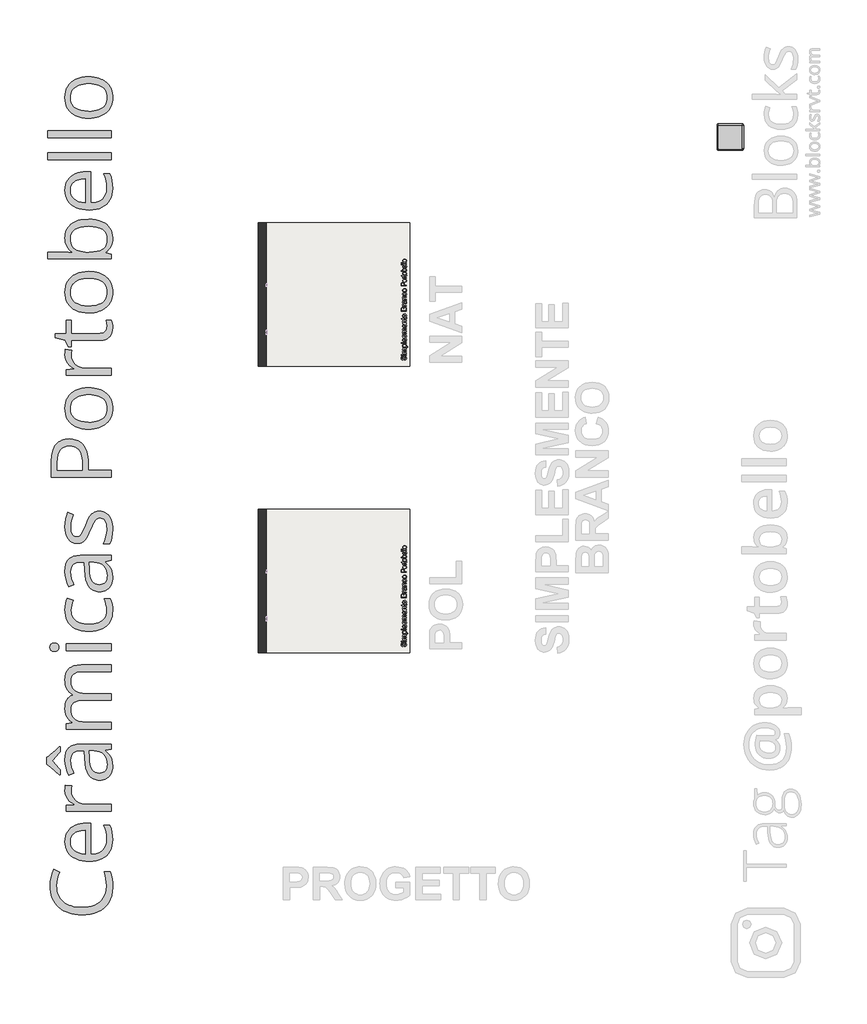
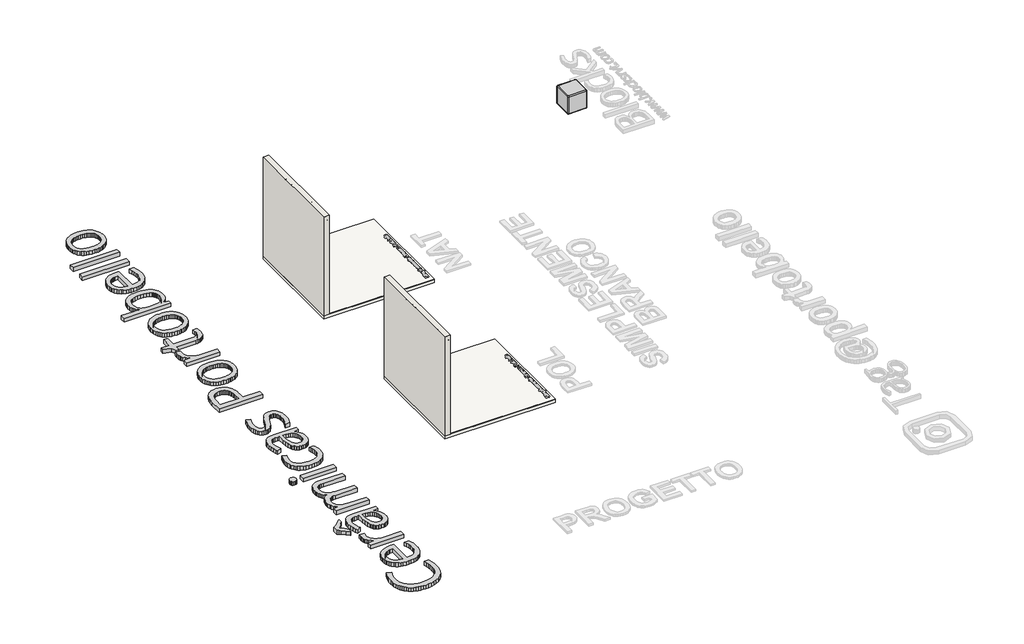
# One storey, part 1 of 6: 4 slabs, 2 walls, 1 furniture element, 1 proxy.
"""IFC4 building model written with IfcOpenShell, lengths in millimetres."""

from ifc_helpers import new_model, si_unit, frame, origin, origin_with_axes, place, context, project, spatial, polyline, outline, extrude, transform, mapped, element, save
from components import branco_22256ad2

model = new_model("IFC4")

# Units and contexts
model_context = context("Model", 3, world=origin())
ifc_project = project(units=[si_unit("LENGTHUNIT", "METRE", prefix="MILLI")], contexts=[model_context])

# Site, building, storey
site = spatial("IfcSite", under=ifc_project)
building = spatial("IfcBuilding", under=site)
storey = spatial("IfcBuildingStorey", under=building, Name="PORTOBELLO - SHOWROOM", Elevation=0.0)

# Proxy
placement = place(None, origin())
element("IfcBuildingElementProxy", 1, Name="1200mm OpenSans", ObjectType="1200mm OpenSans", at=placement, inside=storey, context=model_context, shape_type="SweptSolid", body=[
    extrude(outline(polyline([(237212.7714435, -12426.9162481), (237214.8108037, -12472.773685), (237220.9288843, -12516.2424791), (237231.1256854, -12557.3226302), (237245.4012069, -12596.0141384), (237263.5188381, -12632.1029272), (237285.2419679, -12665.3749202), (237310.5705964, -12695.8301172), (237339.5047237, -12723.4685184), (237371.8415404, -12748.1661847), (237407.3782373, -12769.7991771), (237446.1148142, -12788.3674955), (237488.0512713, -12803.8711401), (237532.9509976, -12816.0960342), (237580.5773824, -12824.8281014), (237630.9304256, -12830.0673417), (237684.0101271, -12831.8137552), (237753.9004665, -12829.0307609), (237818.9909858, -12820.6817779), (237879.2816848, -12806.7668062), (237934.7725636, -12787.2858459), (237984.8551944, -12762.2388969), (238028.9211492, -12731.6259593), (238066.9704279, -12695.447033), (238099.0030307, -12653.7021181), (238124.3992623, -12606.3799473), (238142.5394278, -12553.4692534), (238153.4235271, -12494.9700366), (238157.0515602, -12430.8822967), (238153.8516801, -12357.0146415), (238144.2520397, -12287.5637223), (238129.7849761, -12221.177477), (238111.9828261, -12156.5038435), (238226.9982355, -12156.5038435), (238247.3693033, -12220.1408961), (238261.6110233, -12287.0228975), (238269.9938078, -12361.9271335), (238272.7880693, -12449.6308901), (238268.2586616, -12532.6136967), (238254.6704382, -12608.4981778), (238232.0233993, -12677.2843332), (238200.3175449, -12738.972163), (238160.3415778, -12793.4602625), (238112.8842008, -12840.6472271), (238057.9454139, -12880.5330567), (237995.5252172, -12913.1177515), (237926.3897791, -12938.4351129), (237851.3052681, -12956.5189424), (237770.2716842, -12967.3692402), (237683.2890274, -12970.9860061), (237619.6181733, -12968.7325694), (237558.7641151, -12961.9722593), (237500.7268528, -12950.7050757), (237445.5063863, -12934.9310188), (237393.5308687, -12914.807829), (237345.228453, -12890.493247), (237300.599139, -12861.9872727), (237259.6429269, -12829.2899061), (237222.7429009, -12792.5025519), (237190.2821452, -12751.7266147), (237162.2606597, -12706.9620946), (237138.6784446, -12658.2089915), (237119.9861871, -12605.6025116), (237106.6345747, -12549.2778612), (237098.6236072, -12489.2350402), (237095.9532847, -12425.4740486), (237100.2348144, -12340.5645536), (237113.0794037, -12258.9000074), (237133.9462275, -12182.7338468), (237162.2944613, -12114.3195084), (237274.0649218, -12167.3203397), (237250.8545238, -12224.3773571), (237230.979212, -12286.6623476), (237217.3233856, -12354.1753113), (237212.7714435, -12426.9162481)])), origin_with_axes(), (0.0, 0.0, 1.0), 100.0),
    extrude(outline(polyline([(237372.855587, -11588.9983438), (237375.987864, -11536.5045358), (237385.384695, -11487.9091733), (237401.0460801, -11443.2122562), (237422.9720193, -11402.4137847), (237450.5428174, -11365.840507), (237483.1387793, -11333.8191714), (237520.7599051, -11306.349778), (237563.4061947, -11283.4323267), (237610.4466859, -11265.3710315), (237661.2504164, -11252.4701064), (237715.8173862, -11244.7295513), (237774.1475953, -11242.1493663), (237857.4346159, -11242.1493663), (237857.4346159, -11830.5667586), (237927.4601615, -11825.1021746), (237988.6297009, -11810.8717218), (238040.943234, -11787.8754002), (238084.4007608, -11756.1132099), (238118.5515941, -11716.2611817), (238142.9450464, -11668.9953469), (238157.5811178, -11614.3157052), (238162.4598083, -11552.2222568), (238158.7641721, -11476.1011649), (238147.6772635, -11409.2642323), (238129.3793575, -11345.9426609), (238104.0507289, -11280.3676528), (238217.6239388, -11280.3676528), (238242.5469488, -11344.5905989), (238259.627999, -11408.1825827), (238269.4980517, -11477.1828146), (238272.7880693, -11557.6305049), (238269.5994564, -11617.1325011), (238260.0336176, -11672.690983), (238244.0905529, -11724.3059508), (238221.7702623, -11771.9774043), (238193.2530208, -11815.11945), (238158.7191033, -11853.1461944), (238118.1685098, -11886.0576374), (238071.6012403, -11913.8537792), (238019.2764401, -11935.9374589), (237961.4532542, -11951.7115158), (237898.1316828, -11961.17595), (237829.3117259, -11964.3307614), (237761.539617, -11961.4463624), (237698.4771908, -11952.7931654), (237640.1244473, -11938.3711705), (237586.4813866, -11918.1803777), (237538.1339021, -11892.7165429), (237495.6678874, -11862.4754223), (237459.0833425, -11827.4570159), (237428.3802674, -11787.6613237), (237404.0882197, -11743.6066361), (237386.7367571, -11695.8112436), (237376.3258795, -11644.2751462), (237372.855587, -11588.9983438)]), holes=[polyline([(237478.4966997, -11590.4405433), (237483.0373746, -11639.5429291), (237496.6593995, -11683.372273), (237519.3627743, -11721.928575), (237551.147499, -11755.2118352), (237591.0671303, -11782.7713661), (237638.1752246, -11804.1564804), (237692.471782, -11819.3671782), (237753.9568025, -11828.4034593), (237753.9568025, -11377.3555685), (237677.0244734, -11383.6651913), (237642.2426778, -11391.011395), (237609.9171283, -11401.1518601), (237580.5435808, -11414.1541899), (237554.6177916, -11430.0859874), (237532.1397604, -11448.9472526), (237513.1094875, -11470.7379856), (237497.9663928, -11495.6609955), (237487.1498966, -11523.9190918), (237480.6599989, -11555.5122744), (237478.4966997, -11590.4405433)])]), origin_with_axes(), (0.0, 0.0, 1.0), 100.0),
    extrude(outline(polyline([(237372.855587, -10629.9356823), (237375.559711, -10576.2137513), (237382.9509834, -10526.4578689), (237502.6535412, -10542.6826131), (237494.0003442, -10589.5540966), (237490.7553954, -10637.5072297), (237495.9833685, -10687.5335245), (237511.667288, -10734.4951454), (237537.086054, -10777.1301679), (237571.5185668, -10814.1766673), (237614.378933, -10844.733269), (237665.0812588, -10867.8985983), (237722.8143072, -10882.5008682), (237786.7668409, -10887.3682915), (238249.7128775, -10887.3682915), (238249.7128775, -11017.1662457), (237395.9307788, -11017.1662457), (237395.9307788, -10909.7223836), (237545.1984261, -10895.6609385), (237545.1984261, -10890.2526905), (237499.9494171, -10861.183357), (237458.6664567, -10826.6156379), (237423.3776379, -10786.2791209), (237396.1110538, -10739.9033935), (237385.936787, -10714.5071619), (237378.6694537, -10687.7137994), (237372.855587, -10629.9356823)])), origin_with_axes(), (0.0, 0.0, 1.0), 100.0),
    extrude(outline(polyline([(237026.7277091, -10002.2183539), (237063.9094148, -9978.8727496), (237105.5078563, -9947.7753231), (237191.318726, -9873.8625992), (237263.6089755, -9804.6370236), (237280.5548195, -9804.6370236), (237280.5548195, -9896.2166913), (237250.3587677, -9938.9418512), (237213.8530931, -9982.7486608), (237131.6477221, -10068.9200803), (237213.4925432, -10154.1901252), (237249.9080804, -10196.9603539), (237280.5548195, -10239.0996203), (237280.5548195, -10327.794889), (237263.6089755, -10327.794889), (237190.5976263, -10260.5523377), (237105.1473064, -10188.2620882), (237063.8192773, -10157.2547992), (237026.7277091, -10133.4585076), (237026.7277091, -10002.2183539)])), origin_with_axes(), (0.0, 0.0, 1.0), 100.0),
    extrude(outline(polyline([(237372.855587, -10052.3347862), (237377.1821854, -9980.9909801), (237390.1619809, -9919.4721581), (237411.7949732, -9867.7783201), (237425.8564183, -9845.6157701), (237442.0811625, -9825.9094661), (237460.6832825, -9808.5861714), (237481.8768547, -9793.5726494), (237505.6618792, -9780.8689), (237532.0383558, -9770.4749232), (237592.5656657, -9756.6162874), (237663.4587844, -9751.9967422), (238249.7128775, -9751.9967422), (238249.7128775, -9846.100259), (238131.4525192, -9870.9782002), (238131.4525192, -9877.107548), (238174.2227479, -9913.8385663), (238209.5115667, -9951.9216466), (238237.1387007, -9993.7454319), (238256.9238749, -10041.698565), (238268.8220207, -10098.4401012), (238272.7880693, -10166.6290959), (238271.0754574, -10204.3065576), (238265.9376218, -10239.82072), (238257.3745623, -10273.1715833), (238245.386279, -10304.3591472), (238229.916436, -10332.8651216), (238210.9086974, -10358.1712158), (238188.3630632, -10380.2774298), (238162.2795333, -10399.1837638), (238132.5679704, -10414.3268584), (238099.1382369, -10425.1433546), (238061.9903328, -10431.6332523), (238021.1242582, -10433.7965516), (237989.8803582, -10432.2191459), (237960.5068108, -10427.4869288), (237933.0036158, -10419.5999003), (237907.3707733, -10408.5580605), (237883.6082833, -10394.3614092), (237861.7161457, -10377.0099466), (237841.6943606, -10356.5036726), (237823.5429279, -10332.8425872), (237807.3012828, -10305.9478201), (237793.0088605, -10275.7405011), (237770.2716842, -10205.3882072), (237755.3313988, -10121.7857054), (237748.1880045, -10024.9329959), (237742.0586567, -9878.1891977), (237687.255076, -9878.1891977), (237633.228931, -9881.1524669), (237587.9686548, -9890.0422747), (237551.4742474, -9904.8586211), (237523.7457087, -9925.6015059), (237503.318305, -9951.7301045), (237488.7273023, -9982.703592), (237479.9727007, -10018.5219684), (237477.0545002, -10059.1852338), (237481.9219235, -10124.399692), (237496.5241933, -10186.6396138), (237517.7064983, -10245.8148617), (237542.3140272, -10301.8352981), (237444.2444618, -10341.4957841), (237416.8426714, -10279.5713435), (237393.7674796, -10209.1739808), (237378.0835601, -10132.6472704), (237372.855587, -10052.3347862)]), holes=[polyline([(237833.2777745, -9879.6313972), (237838.6860226, -10009.4293513), (237844.421019, -10083.2294034), (237855.1361105, -10145.2665159), (237870.8312971, -10195.5406888), (237891.5065789, -10234.0519221), (237917.0943527, -10262.6029651), (237947.5270154, -10282.9965673), (237982.804567, -10295.2327286), (238022.9270075, -10299.311449), (238057.4834594, -10296.5397219), (238087.2400911, -10288.2245404), (238112.1969026, -10274.3659047), (238132.3538939, -10254.9638147), (238147.89134, -10231.0097825), (238158.9895158, -10203.4953203), (238165.6484212, -10172.4204282), (238167.8680564, -10137.785106), (238163.8794734, -10083.5786861), (238151.9137245, -10034.5326362), (238131.9708097, -9990.6469564), (238104.0507289, -9951.9216466), (238068.1760166, -9920.2946625), (238024.369207, -9897.7039595), (237972.6303003, -9884.1495377), (237912.9592963, -9879.6313972), (237833.2777745, -9879.6313972)])]), origin_with_axes(), (0.0, 0.0, 1.0), 100.0),
    extrude(outline(polyline([(237372.855587, -8545.9574179), (237377.4976666, -8479.8190506), (237391.4239054, -8422.378949), (237414.6343035, -8373.6371131), (237447.1288607, -8333.5935428), (237467.0999435, -8316.8617753), (237489.876555, -8302.3609101), (237543.8463641, -8280.0518867), (237609.038288, -8266.6664727), (237685.4523266, -8262.204668), (238249.7128775, -8262.204668), (238249.7128775, -8389.4787731), (237690.8605747, -8389.4787731), (237641.6905858, -8392.2730346), (237599.1006321, -8400.6558192), (237563.0907136, -8414.6271267), (237533.6608302, -8434.1869573), (237510.7884477, -8459.2451735), (237494.4510315, -8489.7116377), (237484.6485819, -8525.5863501), (237481.3810987, -8566.8693105), (237485.9105064, -8624.4671527), (237499.4987298, -8673.5920728), (237522.1457686, -8714.244071), (237553.8516231, -8746.4231471), (237594.368415, -8770.8729354), (237643.4482665, -8788.3370698), (237701.0911774, -8798.8155505), (237767.2971477, -8802.3083774), (238249.7128775, -8802.3083774), (238249.7128775, -8930.6641321), (237690.8605747, -8930.6641321), (237626.5474912, -8935.6216928), (237598.8865556, -8941.8186438), (237574.2226909, -8950.4943751), (237552.4995611, -8961.6263524), (237533.6608302, -8975.1920414), (237517.7064983, -8991.191442), (237504.6365655, -9009.6245542), (237494.4622987, -9030.5589812), (237487.1949654, -9054.062326), (237481.3810987, -9108.7757692), (237483.6007338, -9149.0446831), (237490.2596393, -9185.1222048), (237501.357815, -9217.0083341), (237516.8952611, -9244.7030712), (237536.78184, -9268.5444316), (237560.9274143, -9288.8704307), (237589.331984, -9305.6810685), (237621.995549, -9318.976345), (237658.7941704, -9329.0717415), (237699.6039091, -9336.2827389), (237793.2567386, -9342.0515369), (238249.7128775, -9342.0515369), (238249.7128775, -9471.1283913), (237395.9307788, -9471.1283913), (237395.9307788, -9366.9294781), (237508.782889, -9347.459785), (237508.782889, -9340.2487875), (237467.9506159, -9311.359729), (237434.1490653, -9275.8906352), (237407.5585122, -9234.742881), (237388.3592315, -9188.817841), (237376.7314981, -9138.9718211), (237372.855587, -9086.0611272), (237375.1090237, -9039.5163921), (237381.8693338, -8996.8701025), (237393.1365173, -8958.1222583), (237408.9105742, -8923.2728597), (237429.3041764, -8892.6373877), (237454.4299957, -8866.5313235), (237484.288032, -8844.954667), (237518.8782854, -8827.9074184), (237518.8782854, -8821.0569708), (237484.288032, -8798.1845882), (237454.4299957, -8771.3912258), (237429.3041764, -8740.6768835), (237408.9105742, -8706.0415614), (237393.1365173, -8668.5894433), (237381.8693338, -8629.4247134), (237375.1090237, -8588.5473716), (237372.855587, -8545.9574179)])), origin_with_axes(), (0.0, 0.0, 1.0), 100.0),
    extrude(outline(polyline([(237395.9307788, -7865.2392581), (238249.7128775, -7865.2392581), (238249.7128775, -7994.3161126), (237395.9307788, -7994.3161126), (237395.9307788, -7865.2392581)])), origin_with_axes(), (0.0, 0.0, 1.0), 100.0),
    extrude(outline(polyline([(237088.0211875, -7927.974936), (237093.1590232, -7898.4549152), (237108.5725302, -7873.3516303), (237120.2904011, -7863.3351041), (237134.892671, -7856.1804426), (237152.3793398, -7851.8876456), (237172.7504076, -7850.4567133), (237192.8285286, -7851.8876456), (237210.1574569, -7856.1804426), (237224.7371924, -7863.3351041), (237236.5677351, -7873.3516303), (237252.2516545, -7898.4549152), (237257.4796277, -7927.974936), (237252.2516545, -7958.6667439), (237236.5677351, -7983.6798913), (237224.7371924, -7993.3809363), (237210.1574569, -8000.3102542), (237172.7504076, -8005.8537085), (237134.892671, -8000.3102542), (237120.2904011, -7993.3809363), (237108.5725302, -7983.6798913), (237093.1590232, -7958.6667439), (237088.0211875, -7927.974936)])), origin_with_axes(), (0.0, 0.0, 1.0), 100.0),
    extrude(outline(polyline([(238272.7880693, -7237.5219297), (238269.7684642, -7293.3282897), (238260.7096486, -7345.7319602), (238245.6116227, -7394.7329414), (238224.4743864, -7440.3312331), (238197.1514663, -7481.8057356), (238163.4963892, -7518.4353493), (238123.5091548, -7550.220074), (238077.1897634, -7577.1599098), (238024.4706117, -7598.6126272), (237965.2840966, -7613.9359968), (237899.6302182, -7623.1300186), (237827.5089765, -7626.1946925), (237752.3117937, -7622.9610108), (237684.2805395, -7613.2599658), (237623.4152142, -7597.0915575), (237569.7158175, -7574.4557858), (237522.844334, -7546.1413536), (237482.4627483, -7512.9369637), (237448.5710602, -7474.8426162), (237421.1692699, -7431.8583111), (237400.0320336, -7384.8741558), (237384.9340077, -7334.7802578), (237375.8751921, -7281.5766172), (237372.855587, -7225.263234), (237376.0554671, -7162.5275561), (237385.6551074, -7101.9551775), (237400.1221711, -7047.7825591), (237417.9243211, -7004.246162), (237525.728733, -7043.1855483), (237510.991257, -7085.099471), (237497.7861179, -7132.9624666), (237488.4568899, -7182.1775242), (237485.3471473, -7228.147633), (237487.7921261, -7270.6249149), (237495.1270626, -7309.3614918), (237507.3519567, -7344.3573638), (237524.4668085, -7375.6125309), (237546.3138773, -7403.1382603), (237572.7354227, -7426.9458191), (237603.7314445, -7447.0352073), (237639.3019429, -7463.4064249), (237679.3680475, -7476.1045408), (237723.8508881, -7485.1746235), (237772.7504646, -7490.6166732), (237826.066777, -7492.4306897), (237877.1296527, -7490.6617419), (237924.3166173, -7485.3548985), (237967.6276708, -7476.5101594), (238007.0628131, -7464.1275247), (238042.3403647, -7448.2182616), (238073.178646, -7428.7936372), (238099.577657, -7405.8536515), (238121.5373977, -7379.3983046), (238138.8099901, -7349.4163292), (238151.147556, -7315.8964583), (238158.5500956, -7278.8386917), (238161.0176088, -7238.2430294), (238157.4121101, -7174.0651521), (238146.5956139, -7116.3771724), (238130.9116944, -7064.4579908), (238112.7039258, -7017.5865073), (238227.7193352, -7017.5865073), (238246.8735472, -7062.6552414), (238261.0701985, -7112.7716737), (238269.8586016, -7170.2793784), (238272.7880693, -7237.5219297)])), origin_with_axes(), (0.0, 0.0, 1.0), 100.0),
    extrude(outline(polyline([(237372.855587, -6498.7552404), (237377.1821854, -6427.4114343), (237390.1619809, -6365.8926123), (237411.7949732, -6314.1987743), (237425.8564183, -6292.0362243), (237442.0811625, -6272.3299203), (237460.6832825, -6255.0066257), (237481.8768547, -6239.9931036), (237505.6618792, -6227.2893542), (237532.0383558, -6216.8953774), (237592.5656657, -6203.0367417), (237663.4587844, -6198.4171964), (238249.7128775, -6198.4171964), (238249.7128775, -6292.5207132), (238131.4525192, -6317.3986544), (238131.4525192, -6323.5280023), (238174.2227479, -6360.2590205), (238209.5115667, -6398.3421009), (238237.1387007, -6440.1658861), (238256.9238749, -6488.1190192), (238268.8220207, -6544.8605554), (238272.7880693, -6613.0495501), (238271.0754574, -6650.7270118), (238265.9376218, -6686.2411742), (238257.3745623, -6719.5920375), (238245.386279, -6750.7796015), (238229.916436, -6779.2855758), (238210.9086974, -6804.59167), (238188.3630632, -6826.697884), (238162.2795333, -6845.604218), (238132.5679704, -6860.7473127), (238099.1382369, -6871.5638088), (238061.9903328, -6878.0537065), (238021.1242582, -6880.2170058), (237989.8803582, -6878.6396001), (237960.5068108, -6873.907383), (237933.0036158, -6866.0203545), (237907.3707733, -6854.9785147), (237883.6082833, -6840.7818635), (237861.7161457, -6823.4304008), (237841.6943606, -6802.9241268), (237823.5429279, -6779.2630414), (237807.3012828, -6752.3682743), (237793.0088605, -6722.1609553), (237770.2716842, -6651.8086614), (237755.3313988, -6568.2061597), (237748.1880045, -6471.3534501), (237742.0586567, -6324.6096519), (237687.255076, -6324.6096519), (237633.228931, -6327.5729211), (237587.9686548, -6336.4627289), (237551.4742474, -6351.2790753), (237523.7457087, -6372.0219601), (237503.318305, -6398.1505587), (237488.7273023, -6429.1240462), (237479.9727007, -6464.9424227), (237477.0545002, -6505.605688), (237481.9219235, -6570.8201462), (237496.5241933, -6633.060068), (237517.7064983, -6692.2353159), (237542.3140272, -6748.2557524), (237444.2444618, -6787.9162384), (237416.8426714, -6725.9917977), (237393.7674796, -6655.5944351), (237378.0835601, -6579.0677246), (237372.855587, -6498.7552404)]), holes=[polyline([(237833.2777745, -6326.0518514), (237838.6860226, -6455.8498056), (237844.421019, -6529.6498576), (237855.1361105, -6591.6869701), (237870.8312971, -6641.961143), (237891.5065789, -6680.4723763), (237917.0943527, -6709.0234193), (237947.5270154, -6729.4170215), (237982.804567, -6741.6531828), (238022.9270075, -6745.7319032), (238057.4834594, -6742.9601761), (238087.2400911, -6734.6449947), (238112.1969026, -6720.7863589), (238132.3538939, -6701.3842689), (238147.89134, -6677.4302367), (238158.9895158, -6649.9157746), (238165.6484212, -6618.8408824), (238167.8680564, -6584.2055603), (238163.8794734, -6529.9991403), (238151.9137245, -6480.9530905), (238131.9708097, -6437.0674106), (238104.0507289, -6398.3421009), (238068.1760166, -6366.7151167), (238024.369207, -6344.1244137), (237972.6303003, -6330.569992), (237912.9592963, -6326.0518514), (237833.2777745, -6326.0518514)])]), origin_with_axes(), (0.0, 0.0, 1.0), 100.0),
    extrude(outline(polyline([(238019.3215088, -5366.2680901), (238059.2974759, -5368.8144736), (238095.9383568, -5376.453624), (238129.2441512, -5389.1855414), (238159.2148594, -5407.0102257), (238185.7603438, -5429.5783943), (238208.7904669, -5456.5407645), (238228.3052288, -5487.8973363), (238244.3046294, -5523.6481096), (238256.7661344, -5563.4100002), (238265.6672093, -5606.799924), (238271.0078543, -5653.8178808), (238272.7880693, -5704.4638708), (238269.2727081, -5787.8410288), (238258.7266243, -5859.1397662), (238241.7807803, -5920.3431071), (238219.0661383, -5973.4340758), (238100.0846803, -5973.4340758), (238124.7823466, -5916.1517148), (238146.9561637, -5848.8640948), (238162.6400832, -5775.8076768), (238167.8680564, -5701.2189219), (238165.5582837, -5649.840565), (238158.6289659, -5606.0337555), (238147.0801028, -5569.7984933), (238130.9116944, -5541.1347784), (238110.7772375, -5519.3665798), (238087.3302285, -5503.8178666), (238060.5706677, -5494.4886386), (238030.4985549, -5491.378896), (237996.922348, -5496.3364567), (237967.5826021, -5511.209139), (237940.7216365, -5537.7546233), (237914.5817708, -5577.7305905), (237887.4954616, -5633.3003396), (237857.7951658, -5706.62717), (237826.1569145, -5782.8834681), (237794.6989381, -5847.9627201), (237778.1587127, -5876.0067399), (237759.9058754, -5900.6480703), (237739.9404262, -5921.8867112), (237718.2623651, -5939.7226627), (237694.0379205, -5953.8404437), (237666.4333208, -5963.9245729), (237635.4485662, -5969.9750505), (237601.0836564, -5971.9918763), (237549.1306732, -5966.5160251), (237503.5999846, -5950.0884716), (237464.4915906, -5922.7092156), (237431.8054912, -5884.3782573), (237406.0149081, -5837.1687583), (237387.593063, -5783.1538805), (237376.539956, -5722.3336238), (237372.855587, -5654.7079883), (237376.6413606, -5580.0290959), (237387.9986816, -5510.3077643), (237405.7557629, -5445.3637185), (237428.7408172, -5385.0166835), (237532.2186307, -5428.2826682), (237511.3067381, -5482.9961114), (237494.0003442, -5541.1347784), (237482.3726108, -5601.6170196), (237478.4966997, -5663.3611853), (237480.3895865, -5705.4666501), (237486.068247, -5742.3666761), (237495.5326812, -5774.0612634), (237508.782889, -5800.5504118), (237525.3231144, -5821.4510373), (237544.6576013, -5836.3800555), (237566.7863498, -5845.3374664), (237591.7093597, -5848.32327), (237628.8459966, -5842.7798157), (237644.710191, -5835.8504978), (237658.7716361, -5826.1494528), (237684.3256083, -5797.2603943), (237708.3472436, -5754.9408529), (237762.6099994, -5625.8639985), (237793.0764636, -5551.2752436), (237824.6245775, -5487.5931223), (237841.5140856, -5460.1462632), (237860.0936712, -5436.0344905), (237880.3633344, -5415.2578041), (237902.3230751, -5397.816204), (237926.7390618, -5384.0139042), (237954.377463, -5374.1551186), (237985.2382786, -5368.2398472), (238019.3215088, -5366.2680901)])), origin_with_axes(), (0.0, 0.0, 1.0), 100.0),
    extrude(outline(polyline([(237119.0284766, -4424.1512726), (237124.4141903, -4321.586101), (237131.1463324, -4275.8554199), (237140.5713314, -4233.8260086), (237152.6891873, -4195.497867), (237167.4999001, -4160.8709953), (237185.0034697, -4129.9453933), (237205.1998961, -4102.7210611), (237227.9089045, -4078.9332199), (237252.9502199, -4058.3170908), (237280.3238423, -4040.8726739), (237310.0297716, -4026.5999692), (237342.068008, -4015.4989766), (237376.4385513, -4007.5696962), (237413.1414017, -4002.812128), (237452.176559, -4001.2262719), (237523.0696777, -4007.1753448), (237590.0868853, -4025.0225635), (237621.6575335, -4038.7347259), (237651.2902262, -4056.0749213), (237678.9849633, -4077.0431498), (237704.7417448, -4101.6394115), (237728.2112881, -4130.1115842), (237749.0443104, -4162.7075462), (237767.2408118, -4199.4272973), (237782.8007923, -4240.2708375), (237795.2622973, -4285.5874497), (237804.1633722, -4335.7264164), (237809.5040172, -4390.6877376), (237811.2842322, -4450.4714134), (237811.2842322, -4588.9225645), (238249.7128775, -4588.9225645), (238249.7128775, -4721.2443678), (237119.0284766, -4721.2443678), (237119.0284766, -4424.1512726)]), holes=[polyline([(237231.5200368, -4436.7705182), (237231.5200368, -4588.9225645), (237697.7110223, -4588.9225645), (237697.7110223, -4465.2539581), (237696.2462884, -4413.0756312), (237691.8520869, -4365.4267121), (237684.5284176, -4322.3072008), (237674.2752806, -4283.7170972), (237660.7208588, -4249.6564014), (237643.4933352, -4220.1251134), (237622.5927098, -4195.1232332), (237598.0189825, -4174.6507607), (237569.4341379, -4158.7189632), (237536.5001605, -4147.3391078), (237499.2170502, -4140.5111946), (237457.5848071, -4138.2352236), (237404.0882197, -4142.7533641), (237357.8927672, -4156.3077859), (237318.9984497, -4178.8984889), (237287.4052671, -4210.525473), (237262.9554789, -4251.7746319), (237245.4913444, -4303.2318591), (237235.0128637, -4364.8971545), (237231.5200368, -4436.7705182)])]), origin_with_axes(), (0.0, 0.0, 1.0), 100.0),
    extrude(outline(polyline([(237821.3796287, -3036.7553623), (237873.3213447, -3038.456707), (237922.4237305, -3043.5607412), (237968.686786, -3052.0674647), (238012.1105113, -3063.9768777), (238052.4808299, -3079.097438), (238089.5836652, -3097.2376035), (238123.4190174, -3118.3973741), (238153.9868863, -3142.57675), (238181.2084017, -3169.5954561), (238205.0046933, -3199.2732175), (238225.3757611, -3231.6100342), (238242.3216051, -3266.6059062), (238255.6506832, -3304.1143601), (238265.1714533, -3343.9889226), (238270.8839153, -3386.2295937), (238272.7880693, -3430.8363732), (238270.8839153, -3472.6714256), (238265.1714533, -3512.7262631), (238255.6506832, -3551.0008855), (238242.3216051, -3587.4952929), (238225.3757611, -3621.882737), (238205.0046933, -3653.8364695), (238181.2084017, -3683.3564904), (238153.9868863, -3710.4427995), (238123.4190174, -3734.8475191), (238089.5836652, -3756.3227708), (238052.4808299, -3774.8685549), (238012.1105113, -3790.4848713), (237968.686786, -3802.867506), (237922.4237305, -3811.712245), (237873.3213447, -3817.0190885), (237821.3796287, -3818.7880363), (237752.6498092, -3815.824767), (237689.2381003, -3806.9349592), (237631.1445021, -3792.1186129), (237578.3690144, -3771.375728), (237531.2271186, -3745.1231904), (237490.0342956, -3713.7778859), (237454.7905455, -3677.3398144), (237425.4958684, -3635.8089759), (237402.4657453, -3589.6022563), (237386.0156573, -3539.1365413), (237376.1456046, -3484.4118309), (237372.855587, -3425.4281251), (237376.1681389, -3369.0133372), (237386.1057948, -3316.2265824), (237402.6685546, -3267.0678607), (237425.8564183, -3221.5371721), (237455.308836, -3180.2429445), (237490.6652579, -3143.7936058), (237531.9256839, -3112.189156), (237579.0901142, -3085.4295951), (237631.8205331, -3064.1346183), (237689.7789251, -3048.9239205), (237752.9652903, -3039.7975019), (237821.3796287, -3036.7553623)]), holes=[polyline([(237821.0190788, -3685.0240335), (237871.9242139, -3683.3226888), (237919.3590566, -3678.2186547), (237963.3236067, -3669.7119311), (238003.8178643, -3657.8025181), (238040.3686076, -3642.3552095), (238072.502615, -3623.2347991), (238100.2198865, -3600.4412868), (238123.520422, -3573.9746727), (238141.9760686, -3543.6208803), (238155.1586734, -3509.1658331), (238163.0682362, -3470.6095311), (238165.7047571, -3427.9519742), (238163.0682362, -3385.576097), (238155.1586734, -3347.143734), (238141.9760686, -3312.6548853), (238123.520422, -3282.1095507), (238100.2198865, -3255.4063258), (238072.502615, -3232.4438057), (238040.3686076, -3213.2219907), (238003.8178643, -3197.7408805), (237963.3236067, -3185.8314675), (237919.3590566, -3177.324744), (237871.9242139, -3172.2207098), (237821.0190788, -3170.5193651), (237770.6660356, -3172.2207098), (237723.8058193, -3177.324744), (237680.43843, -3185.8314675), (237640.5638675, -3197.7408805), (237604.6102849, -3213.1994563), (237573.0058351, -3232.3536683), (237545.7505181, -3255.2035165), (237522.844334, -3281.7490008), (237504.7041686, -3312.2267323), (237491.7469075, -3346.8733216), (237483.9725509, -3385.6887688), (237481.3810987, -3428.673074), (237487.0146904, -3490.5862475), (237494.0566801, -3518.2218318), (237503.9154657, -3543.6434147), (237516.5910472, -3566.8509959), (237532.0834245, -3587.8445756), (237550.3925977, -3606.6241538), (237571.5185668, -3623.1897303), (237620.9138994, -3650.242238), (237678.9624289, -3669.5654577), (237745.6641554, -3681.1593896), (237821.0190788, -3685.0240335)])]), origin_with_axes(), (0.0, 0.0, 1.0), 100.0),
    extrude(outline(polyline([(237372.855587, -2415.1673817), (237375.559711, -2361.4454507), (237382.9509834, -2311.6895682), (237502.6535412, -2327.9143125), (237494.0003442, -2374.785796), (237490.7553954, -2422.738929), (237495.9833685, -2472.7652239), (237511.667288, -2519.7268448), (237537.086054, -2562.3618673), (237571.5185668, -2599.4083667), (237614.378933, -2629.9649684), (237665.0812588, -2653.1302977), (237722.8143072, -2667.7325676), (237786.7668409, -2672.5999908), (238249.7128775, -2672.5999908), (238249.7128775, -2802.397945), (237395.9307788, -2802.397945), (237395.9307788, -2694.954083), (237545.1984261, -2680.8926379), (237545.1984261, -2675.4843898), (237499.9494171, -2646.4150563), (237458.6664567, -2611.8473373), (237423.3776379, -2571.5108203), (237396.1110538, -2525.1350929), (237385.936787, -2499.7388612), (237378.6694537, -2472.9454988), (237372.855587, -2415.1673817)])), origin_with_axes(), (0.0, 0.0, 1.0), 100.0),
    extrude(outline(polyline([(238167.1469566, -1880.8324703), (238161.7387085, -1815.5729433), (238148.3983632, -1761.1299125), (238248.6312279, -1761.1299125), (238257.9604558, -1788.171153), (238265.7573468, -1823.8655904), (238271.0303887, -1863.4359389), (238272.7880693, -1902.1049128), (238266.7939277, -1966.4630651), (238259.3012507, -1996.3436358), (238248.8115028, -2024.6918695), (238234.7275234, -2050.8993384), (238216.4521517, -2074.3576145), (238193.9853878, -2095.0666978), (238167.3272316, -2113.0265883), (238135.8354536, -2127.5387207), (238098.8678245, -2137.9045296), (238056.4243441, -2144.1240149), (238008.5050126, -2146.1971766), (237496.8847432, -2146.1971766), (237496.8847432, -2267.3419339), (237434.1490653, -2267.3419339), (237383.3115333, -2145.115527), (237188.2540521, -2093.9174451), (237188.2540521, -2016.3992224), (237395.9307788, -2016.3992224), (237395.9307788, -1766.5381606), (237496.8847432, -1766.5381606), (237496.8847432, -2016.3992224), (238005.6206136, -2016.3992224), (238043.6248237, -2014.0894498), (238076.5137324, -2007.160132), (238104.2873397, -1995.6112688), (238126.9456458, -1979.4428605), (238144.5337193, -1959.4210754), (238157.0966289, -1936.312082), (238164.6343747, -1910.1158803), (238167.1469566, -1880.8324703)])), origin_with_axes(), (0.0, 0.0, 1.0), 100.0),
    extrude(outline(polyline([(237821.3796287, -844.612136), (237873.3213447, -846.3134807), (237922.4237305, -851.4175149), (237968.686786, -859.9242384), (238012.1105113, -871.8336514), (238052.4808299, -886.9542117), (238089.5836652, -905.0943772), (238123.4190174, -926.2541478), (238153.9868863, -950.4335237), (238181.2084017, -977.4522298), (238205.0046933, -1007.1299912), (238225.3757611, -1039.4668079), (238242.3216051, -1074.4626799), (238255.6506832, -1111.9711338), (238265.1714533, -1151.8456963), (238270.8839153, -1194.0863674), (238272.7880693, -1238.6931469), (238270.8839153, -1280.5281994), (238265.1714533, -1320.5830368), (238255.6506832, -1358.8576592), (238242.3216051, -1395.3520666), (238225.3757611, -1429.7395108), (238205.0046933, -1461.6932432), (238181.2084017, -1491.2132641), (238153.9868863, -1518.2995732), (238123.4190174, -1542.7042928), (238089.5836652, -1564.1795446), (238052.4808299, -1582.7253286), (238012.1105113, -1598.341645), (237968.686786, -1610.7242797), (237922.4237305, -1619.5690188), (237873.3213447, -1624.8758622), (237821.3796287, -1626.64481), (237752.6498092, -1623.6815407), (237689.2381003, -1614.7917329), (237631.1445021, -1599.9753866), (237578.3690144, -1579.2325017), (237531.2271186, -1552.9799641), (237490.0342956, -1521.6346596), (237454.7905455, -1485.1965881), (237425.4958684, -1443.6657496), (237402.4657453, -1397.45903), (237386.0156573, -1346.993315), (237376.1456046, -1292.2686046), (237372.855587, -1233.2848988), (237376.1681389, -1176.8701109), (237386.1057948, -1124.0833561), (237402.6685546, -1074.9246344), (237425.8564183, -1029.3939458), (237455.308836, -988.0997182), (237490.6652579, -951.6503795), (237531.9256839, -920.0459297), (237579.0901142, -893.2863688), (237631.8205331, -871.991392), (237689.7789251, -856.7806942), (237752.9652903, -847.6542756), (237821.3796287, -844.612136)]), holes=[polyline([(237821.0190788, -1492.8808072), (237871.9242139, -1491.1794625), (237919.3590566, -1486.0754284), (237963.3236067, -1477.5687048), (238003.8178643, -1465.6592918), (238040.3686076, -1450.2119832), (238072.502615, -1431.0915728), (238100.2198865, -1408.2980605), (238123.520422, -1381.8314464), (238141.9760686, -1351.477654), (238155.1586734, -1317.0226068), (238163.0682362, -1278.4663048), (238165.7047571, -1235.808748), (238163.0682362, -1193.4328707), (238155.1586734, -1155.0005077), (238141.9760686, -1120.511659), (238123.520422, -1089.9663244), (238100.2198865, -1063.2630995), (238072.502615, -1040.3005795), (238040.3686076, -1021.0787644), (238003.8178643, -1005.5976542), (237963.3236067, -993.6882412), (237919.3590566, -985.1815177), (237871.9242139, -980.0774835), (237821.0190788, -978.3761388), (237770.6660356, -980.0774835), (237723.8058193, -985.1815177), (237680.43843, -993.6882412), (237640.5638675, -1005.5976542), (237604.6102849, -1021.05623), (237573.0058351, -1040.210442), (237545.7505181, -1063.0602902), (237522.844334, -1089.6057746), (237504.7041686, -1120.083506), (237491.7469075, -1154.7300953), (237483.9725509, -1193.5455426), (237481.3810987, -1236.5298477), (237487.0146904, -1298.4430212), (237494.0566801, -1326.0786055), (237503.9154657, -1351.5001884), (237516.5910472, -1374.7077696), (237532.0834245, -1395.7013493), (237550.3925977, -1414.4809275), (237571.5185668, -1431.046504), (237620.9138994, -1458.0990117), (237678.9624289, -1477.4222314), (237745.6641554, -1489.0161633), (237821.0190788, -1492.8808072)])]), origin_with_axes(), (0.0, 0.0, 1.0), 100.0),
    extrude(outline(polyline([(237049.802901, -481.1778643), (237339.6849987, -481.1778643), (237436.4926395, -483.8819883), (237509.5039887, -488.0283119), (237509.5039887, -481.1778643), (237481.9444578, -461.7419727), (237456.5932949, -438.4076356), (237433.4505, -411.1748531), (237412.516073, -380.043625), (237395.1646103, -344.6759359), (237382.7707085, -304.7337703), (237375.3343673, -260.2171282), (237372.855587, -211.1260096), (237374.621718, -172.1190203), (237379.920111, -135.1401239), (237388.7507661, -100.1893206), (237401.1136832, -67.2666104), (237417.0088624, -36.3719932), (237436.4363036, -7.505469), (237459.3960068, 19.3329622), (237485.8879721, 44.1433003), (237515.861497, 66.4523237), (237549.2658794, 85.7868106), (237586.1011191, 102.1467611), (237626.3672162, 115.5321751), (237670.0641707, 125.9430527), (237717.1919826, 133.3793938), (237821.7401785, 139.3284667), (237892.2276787, 136.6018083), (237956.9463808, 128.421833), (238015.896285, 114.788541), (238069.0773912, 95.7019321), (238116.3094246, 71.6690296), (238157.4121101, 43.1968569), (238192.3854477, 10.2854138), (238221.2294375, -27.0652996), (238243.7863389, -68.4496647), (238259.8984114, -113.4620628), (238269.5656548, -162.1024941), (238272.7880693, -214.3709585), (238270.433228, -262.6057711), (238263.3687039, -306.3562447), (238251.5944971, -345.6223793), (238235.1106076, -380.4041749), (238215.2240287, -411.0621812), (238193.2417537, -437.9569483), (238169.1637825, -461.0884761), (238142.9901151, -480.4567646), (238142.9901151, -490.552161), (238249.7128775, -516.8723017), (238249.7128775, -610.2547187), (237049.802901, -610.2547187), (237049.802901, -481.1778643)]), holes=[polyline([(237480.6599989, -232.3984521), (237482.9810387, -276.1827273), (237489.9441581, -315.2347854), (237501.5493572, -349.5546264), (237517.7966358, -379.1422503), (237538.7085284, -404.4483445), (237564.3075694, -425.9235963), (237594.5937587, -443.5680057), (237629.5670964, -457.3815727), (237669.3627886, -467.7924503), (237714.1160415, -475.2287914), (237763.8268552, -479.6905961), (237818.4952297, -481.1778643), (237825.7062271, -481.1778643), (237903.4159919, -477.8202436), (237971.4134445, -467.7473815), (238029.6985848, -450.9592781), (238078.271413, -427.4559333), (238098.763603, -412.6564877), (238116.5235011, -395.1191165), (238131.5511071, -374.8438198), (238143.8464211, -351.8305974), (238153.4094431, -326.0794495), (238160.2401731, -297.590376), (238165.7047571, -232.3984521), (238160.1162341, -176.6258937), (238153.1305803, -151.5282424), (238143.350665, -128.2896763), (238130.7764882, -106.9101956), (238115.4080499, -87.3898002), (238097.24535, -69.72849), (238076.2883887, -53.9262651), (238026.7803843, -27.8990712), (237967.6727395, -9.3082183), (237898.9654544, 1.8462933), (237820.6585289, 5.5644639), (237741.3375569, 1.9026293), (237672.4725312, -9.0828747), (237614.0634518, -27.3920479), (237566.1103188, -53.0248904), (237546.0829, -68.6440236), (237528.7258038, -86.2067459), (237514.0390301, -105.7130574), (237502.0225789, -127.162958), (237486.0006439, -175.8935267), (237480.6599989, -232.3984521)])]), origin_with_axes(), (0.0, 0.0, 1.0), 100.0),
    extrude(outline(polyline([(237372.855587, 687.0037234), (237375.987864, 739.4975314), (237385.384695, 788.092894), (237401.0460801, 832.789811), (237422.9720193, 873.5882825), (237450.5428174, 910.1615603), (237483.1387793, 942.1828958), (237520.7599051, 969.6522893), (237563.4061947, 992.5697405), (237610.4466859, 1010.6310357), (237661.2504164, 1023.5319609), (237715.8173862, 1031.272516), (237774.1475953, 1033.852701), (237857.4346159, 1033.852701), (237857.4346159, 445.4353087), (237927.4601615, 450.8998927), (237988.6297009, 465.1303455), (238040.943234, 488.126667), (238084.4007608, 519.8888574), (238118.5515941, 559.7408855), (238142.9450464, 607.0067204), (238157.5811178, 661.686362), (238162.4598083, 723.7798104), (238158.7641721, 799.9009023), (238147.6772635, 866.737835), (238129.3793575, 930.0594064), (238104.0507289, 995.6344145), (238217.6239388, 995.6344145), (238242.5469488, 931.4114684), (238259.627999, 867.8194846), (238269.4980517, 798.8192527), (238272.7880693, 718.3715623), (238269.5994564, 658.8695661), (238260.0336176, 603.3110842), (238244.0905529, 551.6961165), (238221.7702623, 504.024663), (238193.2530208, 460.8826173), (238158.7191033, 422.8558729), (238118.1685098, 389.9444298), (238071.6012403, 362.1482881), (238019.2764401, 340.0646083), (237961.4532542, 324.2905514), (237898.1316828, 314.8261173), (237829.3117259, 311.6713059), (237761.539617, 314.5557049), (237698.4771908, 323.2089018), (237640.1244473, 337.6308967), (237586.4813866, 357.8216896), (237538.1339021, 383.2855243), (237495.6678874, 413.5266449), (237459.0833425, 448.5450513), (237428.3802674, 488.3407435), (237404.0882197, 532.3954311), (237386.7367571, 580.1908236), (237376.3258795, 631.726921), (237372.855587, 687.0037234)]), holes=[polyline([(237478.4966997, 685.5615239), (237483.0373746, 636.4591381), (237496.6593995, 592.6297942), (237519.3627743, 554.0734922), (237551.147499, 520.7902321), (237591.0671303, 493.2307012), (237638.1752246, 471.8455868), (237692.471782, 456.6348891), (237753.9568025, 447.5986079), (237753.9568025, 898.6464987), (237677.0244734, 892.3368759), (237642.2426778, 884.9906723), (237609.9171283, 874.8502071), (237580.5435808, 861.8478773), (237554.6177916, 845.9160798), (237532.1397604, 827.0548146), (237513.1094875, 805.2640817), (237497.9663928, 780.3410717), (237487.1498966, 752.0829754), (237480.6599989, 720.4897928), (237478.4966997, 685.5615239)])]), origin_with_axes(), (0.0, 0.0, 1.0), 100.0),
    extrude(outline(polyline([(238249.7128775, 1388.6337758), (238249.7128775, 1258.8358216), (237049.802901, 1258.8358216), (237049.802901, 1388.6337758), (238249.7128775, 1388.6337758)])), origin_with_axes(), (0.0, 0.0, 1.0), 100.0),
    extrude(outline(polyline([(238249.7128775, 1803.9872292), (238249.7128775, 1674.189275), (237049.802901, 1674.189275), (237049.802901, 1803.9872292), (238249.7128775, 1803.9872292)])), origin_with_axes(), (0.0, 0.0, 1.0), 100.0),
    extrude(outline(polyline([(237821.3796287, 2824.343369), (237873.3213447, 2822.6420243), (237922.4237305, 2817.5379902), (237968.686786, 2809.0312666), (238012.1105113, 2797.1218536), (238052.4808299, 2782.0012934), (238089.5836652, 2763.8611279), (238123.4190174, 2742.7013572), (238153.9868863, 2718.5219814), (238181.2084017, 2691.5032753), (238205.0046933, 2661.8255139), (238225.3757611, 2629.4886972), (238242.3216051, 2594.4928252), (238255.6506832, 2556.9843712), (238265.1714533, 2517.1098087), (238270.8839153, 2474.8691377), (238272.7880693, 2430.2623581), (238270.8839153, 2388.4273057), (238265.1714533, 2348.3724683), (238255.6506832, 2310.0978458), (238242.3216051, 2273.6034384), (238225.3757611, 2239.2159943), (238205.0046933, 2207.2622618), (238181.2084017, 2177.742241), (238153.9868863, 2150.6559318), (238123.4190174, 2126.2512123), (238089.5836652, 2104.7759605), (238052.4808299, 2086.2301764), (238012.1105113, 2070.6138601), (237968.686786, 2058.2312254), (237922.4237305, 2049.3864863), (237873.3213447, 2044.0796429), (237821.3796287, 2042.310695), (237752.6498092, 2045.2739643), (237689.2381003, 2054.1637721), (237631.1445021, 2068.9801184), (237578.3690144, 2089.7230033), (237531.2271186, 2115.9755409), (237490.0342956, 2147.3208455), (237454.7905455, 2183.758917), (237425.4958684, 2225.2897555), (237402.4657453, 2271.4964751), (237386.0156573, 2321.9621901), (237376.1456046, 2376.6869005), (237372.855587, 2435.6706062), (237376.1681389, 2492.0853941), (237386.1057948, 2544.8721489), (237402.6685546, 2594.0308706), (237425.8564183, 2639.5615593), (237455.308836, 2680.8557869), (237490.6652579, 2717.3051256), (237531.9256839, 2748.9095753), (237579.0901142, 2775.6691362), (237631.8205331, 2796.9641131), (237689.7789251, 2812.1748108), (237752.9652903, 2821.3012295), (237821.3796287, 2824.343369)]), holes=[polyline([(237821.0190788, 2176.0746978), (237871.9242139, 2177.7760425), (237919.3590566, 2182.8800767), (237963.3236067, 2191.3868002), (238003.8178643, 2203.2962132), (238040.3686076, 2218.7435218), (238072.502615, 2237.8639323), (238100.2198865, 2260.6574445), (238123.520422, 2287.1240586), (238141.9760686, 2317.4778511), (238155.1586734, 2351.9328983), (238163.0682362, 2390.4892003), (238165.7047571, 2433.1467571), (238163.0682362, 2475.5226343), (238155.1586734, 2513.9549973), (238141.9760686, 2548.4438461), (238123.520422, 2578.9891806), (238100.2198865, 2605.6924056), (238072.502615, 2628.6549256), (238040.3686076, 2647.8767407), (238003.8178643, 2663.3578509), (237963.3236067, 2675.2672638), (237919.3590566, 2683.7739874), (237871.9242139, 2688.8780215), (237821.0190788, 2690.5793662), (237770.6660356, 2688.8780215), (237723.8058193, 2683.7739874), (237680.43843, 2675.2672638), (237640.5638675, 2663.3578509), (237604.6102849, 2647.8992751), (237573.0058351, 2628.7450631), (237545.7505181, 2605.8952149), (237522.844334, 2579.3497305), (237504.7041686, 2548.8719991), (237491.7469075, 2514.2254097), (237483.9725509, 2475.4099625), (237481.3810987, 2432.4256574), (237487.0146904, 2370.5124839), (237494.0566801, 2342.8768995), (237503.9154657, 2317.4553167), (237516.5910472, 2294.2477354), (237532.0834245, 2273.2541557), (237550.3925977, 2254.4745776), (237571.5185668, 2237.909001), (237620.9138994, 2210.8564934), (237678.9624289, 2191.5332736), (237745.6641554, 2179.9393418), (237821.0190788, 2176.0746978)])]), origin_with_axes(), (0.0, 0.0, 1.0), 100.0),
])

# Furniture
branco_shape = branco_22256ad2(model_context)
element("IfcFurniture", 2, ObjectType="Blks_Mob_Blocks Revit_Cubo : Branco", at=placement, inside=storey, context=model_context, shape_type="MappedRepresentation", body=[
    mapped(branco_shape, transform((249915.1225153, 1688.7593354, 0.0), x_axis=(1.0, 0.0, 0.0), y_axis=(0.0, 1.0, 0.0), z_axis=(0.0, 0.0, 1.0))),
])

# Slabs
element("IfcSlab", 3, ObjectType="PORTOBELLO - LAJE", at=placement, inside=storey, context=model_context, shape_type="SweptSolid", body=[
    extrude(outline(polyline([(243870.995962, -5330.5523032), (243870.995962, -8030.5523032), (241020.995962, -8030.5523032), (241020.995962, -5330.5523032), (243870.995962, -5330.5523032)])), frame((0.0, 0.0, -80.0), z_axis=(0.0, 0.0, 1.0), x_axis=(1.0, 0.0, 0.0)), (0.0, 0.0, 1.0), 80.0),
])
element("IfcSlab", 4, ObjectType="PORTOBELLO - PROGETTO - SIMPLESMENTE BRANCO - 90X90 - POL", at=placement, inside=storey, context=model_context, shape_type="SweptSolid", body=[
    extrude(outline(polyline([(243870.995962, -8030.5523032), (241170.995962, -8030.5523032), (241170.995962, -5330.5523032), (243870.995962, -5330.5523032), (243870.995962, -8030.5523032)])), origin_with_axes(), (0.0, 0.0, 1.0), 17.0),
])
element("IfcSlab", 5, ObjectType="PORTOBELLO - LAJE", at=placement, inside=storey, context=model_context, shape_type="SweptSolid", body=[
    extrude(outline(polyline([(243870.995962, 69.4476968), (243870.995962, -2630.5523032), (241020.995962, -2630.5523032), (241020.995962, 69.4476968), (243870.995962, 69.4476968)])), frame((0.0, 0.0, -80.0), z_axis=(0.0, 0.0, 1.0), x_axis=(1.0, 0.0, 0.0)), (0.0, 0.0, 1.0), 80.0),
])
element("IfcSlab", 6, ObjectType="PORTOBELLO - PROGETTO - SIMPLESMENTE BRANCO - 90X90 - NAT", at=placement, inside=storey, context=model_context, shape_type="SweptSolid", body=[
    extrude(outline(polyline([(243870.995962, -2630.5523032), (241170.995962, -2630.5523032), (241170.995962, 69.4476968), (243870.995962, 69.4476968), (243870.995962, -2630.5523032)])), origin_with_axes(), (0.0, 0.0, 1.0), 17.0),
])

# Walls
element("IfcWall", 7, ObjectType="PORTOBELLO - PROGETTO - SIMPLESMENTE BRANCO - 90X90 - POL", at=placement, inside=storey, context=model_context, shape_type="SweptSolid", body=[
    extrude(outline(polyline([(241170.995962, -5330.5523032), (241170.995962, -8030.5523032), (241020.995962, -8030.5523032), (241020.995962, -5330.5523032), (241170.995962, -5330.5523032)])), origin_with_axes(), (0.0, 0.0, 1.0), 2700.0),
])
element("IfcWall", 8, ObjectType="PORTOBELLO - PROGETTO - SIMPLESMENTE BRANCO - 90X90 - NAT", at=placement, inside=storey, context=model_context, shape_type="SweptSolid", body=[
    extrude(outline(polyline([(241170.995962, 69.4476968), (241170.995962, -2630.5523032), (241020.995962, -2630.5523032), (241020.995962, 69.4476968), (241170.995962, 69.4476968)])), origin_with_axes(), (0.0, 0.0, 1.0), 2700.0),
])

save(model, "model.ifc")
